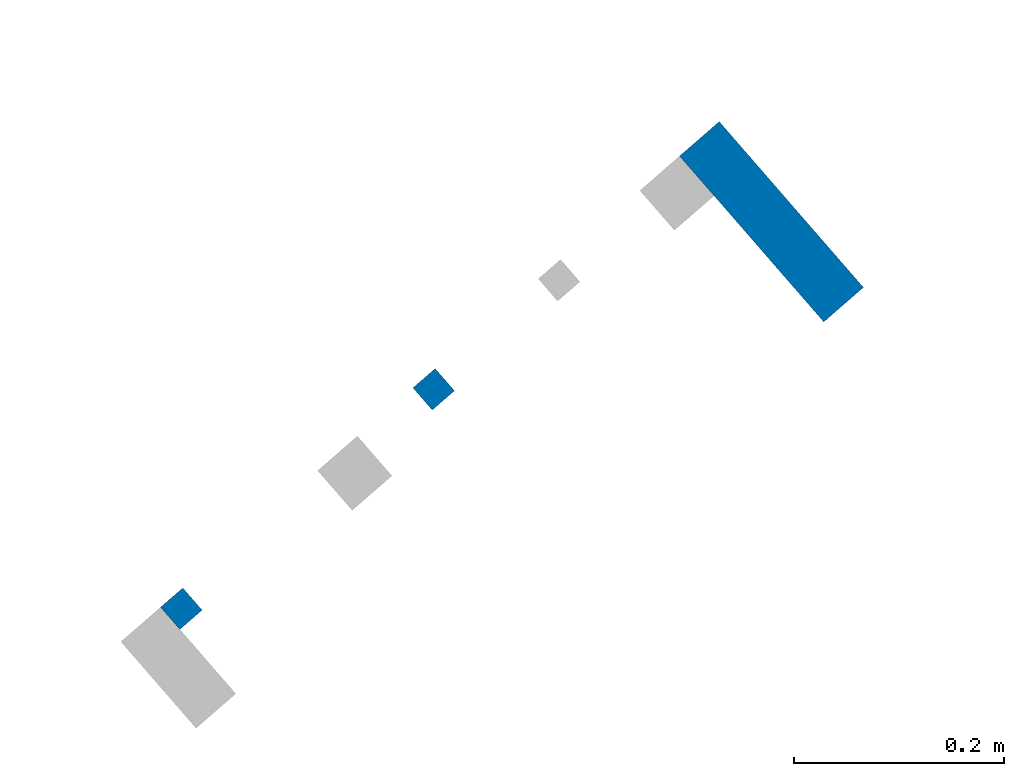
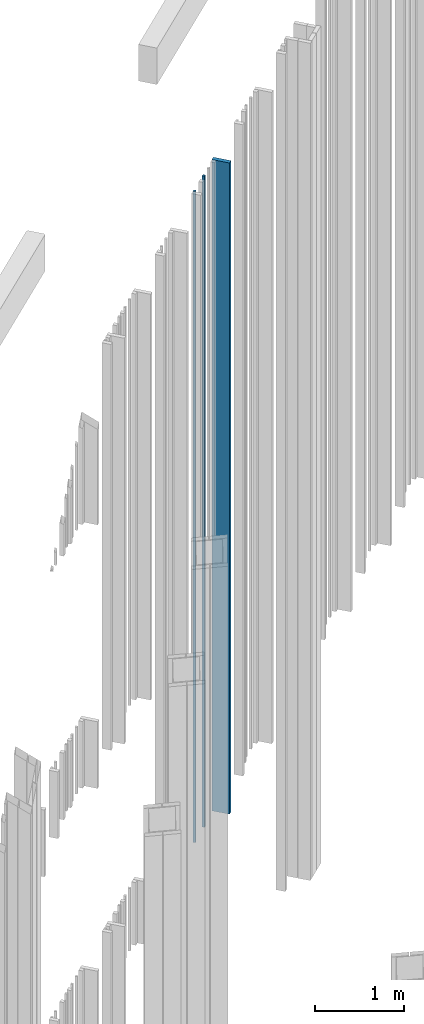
# One storey, part 217 of 390: 3 walls.
"""IFC2X3 building model written with IfcOpenShell, lengths in millimetres."""

from ifc_helpers import new_model, entity, si_unit, converted_unit, derived_unit, money_unit, direction, frame, origin_with_axes, place, context, subcontext, project, spatial, faceted_brep, material, type_object, element, save


model = new_model("IFC2X3")

# Units and contexts
model_context = context("Model", 3, precision=1e-05, world=origin_with_axes(), true_north=direction((0.0, 1.0)))
body_context = subcontext(model_context, "Body", "Model", "MODEL_VIEW")
ifc_project = project(units=[si_unit("LENGTHUNIT", "METRE", prefix="MILLI"), si_unit("AREAUNIT", "SQUARE_METRE"), si_unit("VOLUMEUNIT", "CUBIC_METRE"), converted_unit("PLANEANGLEUNIT", "DEGREE", entity("IfcPlaneAngleMeasure", 0.0174532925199), si_unit("PLANEANGLEUNIT", "RADIAN"), dimensions=[0, 0, 0, 0, 0, 0, 0]), si_unit("SOLIDANGLEUNIT", "STERADIAN"), money_unit("EUR"), converted_unit("TIMEUNIT", "Year", entity("IfcTimeMeasure", 31556926.0), si_unit("TIMEUNIT", "SECOND"), dimensions=[0, 0, 1, 0, 0, 0, 0]), si_unit("MASSUNIT", "GRAM", prefix="KILO"), si_unit("THERMODYNAMICTEMPERATUREUNIT", "DEGREE_CELSIUS"), si_unit("LUMINOUSINTENSITYUNIT", "LUMEN"), si_unit("ENERGYUNIT", "JOULE", prefix="MEGA"), derived_unit("THERMALCONDUCTANCEUNIT", [(si_unit("POWERUNIT", "WATT"), 1), (si_unit("LENGTHUNIT", "METRE"), -1), (si_unit("THERMODYNAMICTEMPERATUREUNIT", "KELVIN"), -1)]), derived_unit("SPECIFICHEATCAPACITYUNIT", [(si_unit("ENERGYUNIT", "JOULE"), 1), (si_unit("MASSUNIT", "GRAM", prefix="KILO"), -1), (si_unit("THERMODYNAMICTEMPERATUREUNIT", "KELVIN"), -1)]), derived_unit("MASSDENSITYUNIT", [(si_unit("MASSUNIT", "GRAM", prefix="KILO"), 1), (si_unit("VOLUMEUNIT", "CUBIC_METRE"), -1)])], contexts=[model_context])

# Site, building, storey
site_placement = place(None, origin_with_axes())
site = spatial("IfcSite", under=ifc_project, at=site_placement, Name="Site", CompositionType="ELEMENT")
building_placement = place(site_placement, origin_with_axes())
building = spatial("IfcBuilding", under=site, at=building_placement, Name="Building", CompositionType="ELEMENT")
storey_placement = place(building_placement, origin_with_axes())
storey = spatial("IfcBuildingStorey", under=building, at=storey_placement, Name="1 korrus", CompositionType="ELEMENT", Elevation=0.0)

# Walls
ifc_material = material(Name="Site specified")
wall_type = type_object("IfcWallType", Name="Puitfassaadi ribistik", PredefinedType="NOTDEFINED")
for number, where, z_axis, x_axis, name in (
    (1, (155743.573407, 80031.0146593, 935.000018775), (0.0, 0.0, 1.0), (-0.754709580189, -0.65605902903, 0.0), "Site specified"),
    (2, (155503.57576, 79822.387888, 935.000018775), (0.0, 0.0, 1.0), (-0.754709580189, -0.65605902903, 0.0), "Site specified"),
):
    element("IfcWall", number, at=place(storey_placement, frame(where, z_axis=z_axis, x_axis=x_axis)), inside=storey, type_object=wall_type, material=ifc_material, Name=name, context=body_context, shape_type="Brep", body=[
        faceted_brep([(-14.0, -14.0, 8929.99998122), (-14.0, -14.0, 0.0), (14.0, -14.0, 0.0), (14.0, -14.0, 8929.99998122), (-14.0, 14.0, 8929.99998122), (-14.0, 14.0, 0.0), (14.0, 14.0, 0.0), (14.0, 14.0, 8929.99998122)], [[[0, 1, 2, 3]], [[4, 5, 1, 0]], [[2, 1, 5, 6]], [[3, 2, 6, 7]], [[4, 0, 3, 7]], [[7, 6, 5, 4]]]),
    ])
wall_placement = place(storey_placement, frame((156064.830973, 80190.3659253, 935.000018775), z_axis=(0.0, 0.0, 1.0), x_axis=(-0.754709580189, -0.65605902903, 0.0)))
element("IfcWall", 3, at=wall_placement, inside=storey, type_object=wall_type, material=ifc_material, Name="Site specified", context=body_context, shape_type="Brep", body=[
    faceted_brep([(-25.0, -104.5, 8929.99998122), (-25.0, -104.5, 0.0), (25.0, -104.5, 0.0), (25.0, -104.5, 8929.99998122), (-25.0, 104.5, 8929.99998122), (-25.0, 104.5, 0.0), (25.0, 104.5, 0.0), (25.0, 104.5, 8929.99998122)], [[[0, 1, 2, 3]], [[4, 5, 1, 0]], [[2, 1, 5, 6]], [[3, 2, 6, 7]], [[4, 0, 3, 7]], [[7, 6, 5, 4]]]),
])

save(model, "model.ifc")
